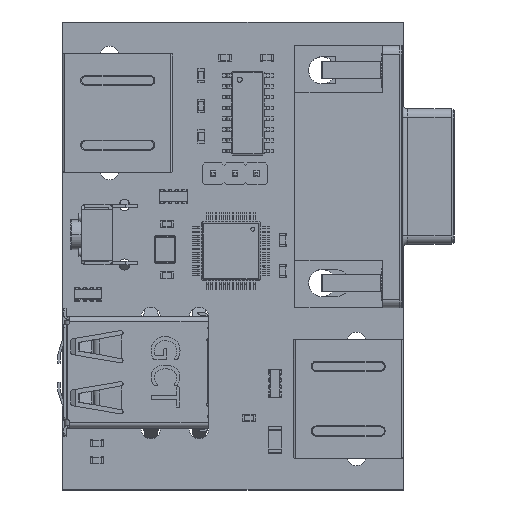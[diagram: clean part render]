
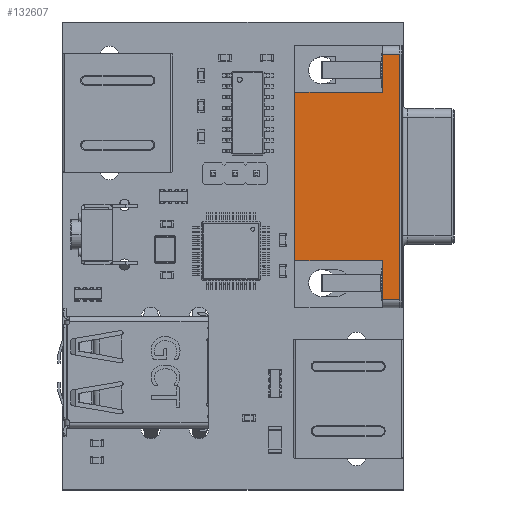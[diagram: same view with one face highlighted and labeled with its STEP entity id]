
A CAD part, top view. The second image highlights one B-rep face of the part: STEP entity #132607.
In plain terms, the highlighted planar face has unit normal (0, 0, 1).
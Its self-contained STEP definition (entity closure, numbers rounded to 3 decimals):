
#132140 = VERTEX_POINT('',#132141);
#132141 = CARTESIAN_POINT('',(-19.94,-10.54,12.5));
#132172 = EDGE_CURVE('',#132173,#132140,#132175,.T.);
#132173 = VERTEX_POINT('',#132174);
#132174 = CARTESIAN_POINT('',(8.86,-10.54,12.5));
#132175 = LINE('',#132176,#132177);
#132176 = CARTESIAN_POINT('',(9.86,-10.54,12.5));
#132177 = VECTOR('',#132178,1.);
#132178 = DIRECTION('',(-1.,0.,0.));
#132582 = VERTEX_POINT('',#132583);
#132583 = CARTESIAN_POINT('',(-19.94,-8.54,12.5));
#132597 = EDGE_CURVE('',#132140,#132582,#132598,.T.);
#132598 = LINE('',#132599,#132600);
#132599 = CARTESIAN_POINT('',(-19.94,-10.54,12.5));
#132600 = VECTOR('',#132601,1.);
#132601 = DIRECTION('',(-0.,1.,0.));
#132607 = ADVANCED_FACE('',(#132608),#132658,.T.);
#132608 = FACE_BOUND('',#132609,.T.);
#132609 = EDGE_LOOP('',(#132610,#132611,#132619,#132627,#132635,#132643,
    #132651,#132657));
#132610 = ORIENTED_EDGE('',*,*,#132172,.F.);
#132611 = ORIENTED_EDGE('',*,*,#132612,.T.);
#132612 = EDGE_CURVE('',#132173,#132613,#132615,.T.);
#132613 = VERTEX_POINT('',#132614);
#132614 = CARTESIAN_POINT('',(8.86,-8.54,12.5));
#132615 = LINE('',#132616,#132617);
#132616 = CARTESIAN_POINT('',(8.86,-10.54,12.5));
#132617 = VECTOR('',#132618,1.);
#132618 = DIRECTION('',(-0.,1.,0.));
#132619 = ORIENTED_EDGE('',*,*,#132620,.F.);
#132620 = EDGE_CURVE('',#132621,#132613,#132623,.T.);
#132621 = VERTEX_POINT('',#132622);
#132622 = CARTESIAN_POINT('',(4.36,-8.54,12.5));
#132623 = LINE('',#132624,#132625);
#132624 = CARTESIAN_POINT('',(8.86,-8.54,12.5));
#132625 = VECTOR('',#132626,1.);
#132626 = DIRECTION('',(1.,0.,0.));
#132627 = ORIENTED_EDGE('',*,*,#132628,.F.);
#132628 = EDGE_CURVE('',#132629,#132621,#132631,.T.);
#132629 = VERTEX_POINT('',#132630);
#132630 = CARTESIAN_POINT('',(4.36,1.8,12.5));
#132631 = LINE('',#132632,#132633);
#132632 = CARTESIAN_POINT('',(4.36,-9.54,12.5));
#132633 = VECTOR('',#132634,1.);
#132634 = DIRECTION('',(0.,-1.,0.));
#132635 = ORIENTED_EDGE('',*,*,#132636,.T.);
#132636 = EDGE_CURVE('',#132629,#132637,#132639,.T.);
#132637 = VERTEX_POINT('',#132638);
#132638 = CARTESIAN_POINT('',(-15.44,1.8,12.5));
#132639 = LINE('',#132640,#132641);
#132640 = CARTESIAN_POINT('',(9.86,1.8,12.5));
#132641 = VECTOR('',#132642,1.);
#132642 = DIRECTION('',(-1.,0.,0.));
#132643 = ORIENTED_EDGE('',*,*,#132644,.F.);
#132644 = EDGE_CURVE('',#132645,#132637,#132647,.T.);
#132645 = VERTEX_POINT('',#132646);
#132646 = CARTESIAN_POINT('',(-15.44,-8.54,12.5));
#132647 = LINE('',#132648,#132649);
#132648 = CARTESIAN_POINT('',(-15.44,-9.54,12.5));
#132649 = VECTOR('',#132650,1.);
#132650 = DIRECTION('',(0.,1.,0.));
#132651 = ORIENTED_EDGE('',*,*,#132652,.F.);
#132652 = EDGE_CURVE('',#132582,#132645,#132653,.T.);
#132653 = LINE('',#132654,#132655);
#132654 = CARTESIAN_POINT('',(-4.54,-8.54,12.5));
#132655 = VECTOR('',#132656,1.);
#132656 = DIRECTION('',(1.,0.,0.));
#132657 = ORIENTED_EDGE('',*,*,#132597,.F.);
#132658 = PLANE('',#132659);
#132659 = AXIS2_PLACEMENT_3D('',#132660,#132661,#132662);
#132660 = CARTESIAN_POINT('',(9.86,-10.54,12.5));
#132661 = DIRECTION('',(0.,0.,1.));
#132662 = DIRECTION('',(-1.,0.,0.));
